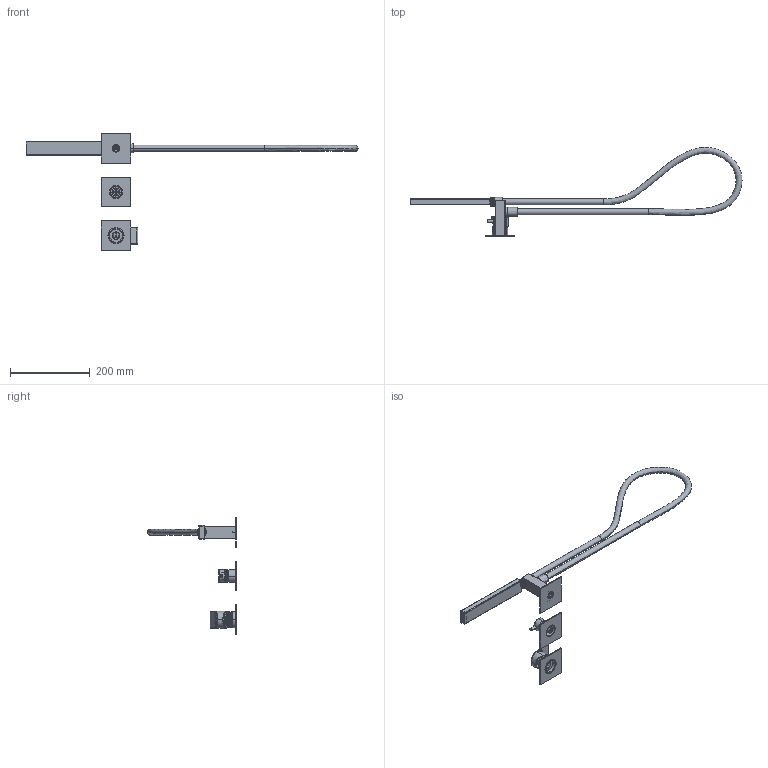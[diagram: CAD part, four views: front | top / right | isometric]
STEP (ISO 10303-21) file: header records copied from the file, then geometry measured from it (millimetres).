
FILE_DESCRIPTION((''),'2;1');
FILE_NAME('74569V2_SW0001','2024-11-27T13:15:30',('volponeff'),(''),'CREO PARAMETRIC BY PTC INC, 2022014','CREO PARAMETRIC BY PTC INC, 2022014','');
FILE_SCHEMA(('CONFIG_CONTROL_DESIGN'));
Products named in the file (1): 74569V2_SW0001
Bounding box: 835.3 x 223.88 x 295 mm (x, y, z)
Volume: 369868 mm3; surface area: 232793.1 mm2
Topology: 10 solids, 10 shells, 1855 faces, 4733 edges, 3015 vertices
Faces by surface type: cylinder 813, plane 598, cone 180, bspline 157, torus 82, sphere 25
Entity records: 130118 total; most frequent: CARTESIAN_POINT 86436, ORIENTED_EDGE 9414, DIRECTION 8602, EDGE_CURVE 4707, AXIS2_PLACEMENT_3D 3304, VERTEX_POINT 3015, EDGE_LOOP 2102, VECTOR 1994
